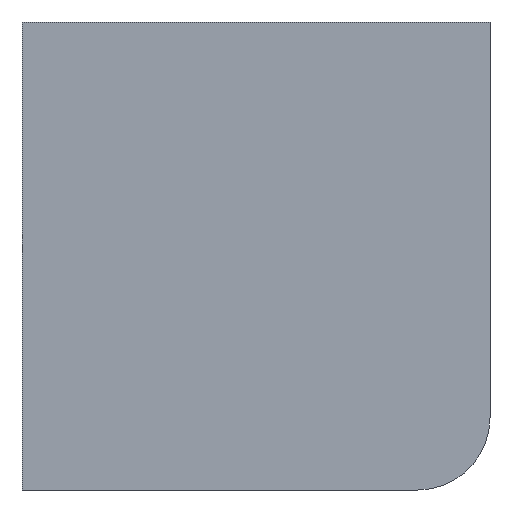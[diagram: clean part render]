
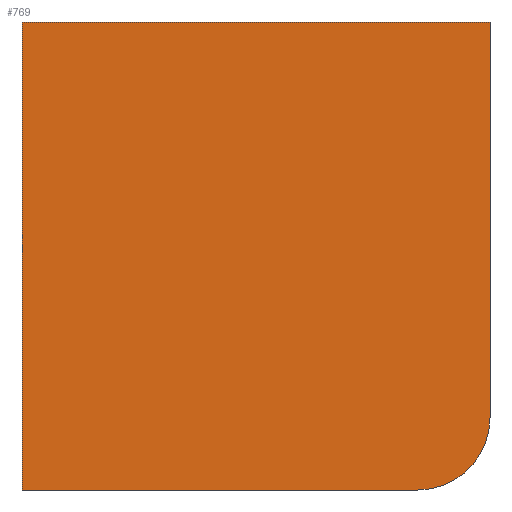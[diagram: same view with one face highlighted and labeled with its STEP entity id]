
A CAD part, left-side view. The second image highlights one B-rep face of the part: STEP entity #769.
In plain terms, the highlighted planar face has unit normal (-1, 0, 0).
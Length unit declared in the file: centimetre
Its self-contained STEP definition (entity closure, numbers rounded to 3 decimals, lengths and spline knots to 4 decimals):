
#78 = EDGE_CURVE ( 'NONE', #677, #429, #668, .T. ) ;
#90 = DIRECTION ( 'NONE',  ( 0., 0., -1. ) ) ;
#91 = PLANE ( 'NONE',  #541 ) ;
#95 = VECTOR ( 'NONE', #798, 100. ) ;
#100 = ORIENTED_EDGE ( 'NONE', *, *, #507, .T. ) ;
#131 = CARTESIAN_POINT ( 'NONE',  ( 0., 154.4971, 154.4971 ) ) ;
#159 = CARTESIAN_POINT ( 'NONE',  ( 0., 1000., 0. ) ) ;
#160 = CARTESIAN_POINT ( 'NONE',  ( 0., 0., 1000. ) ) ;
#240 = LINE ( 'NONE', #797, #555 ) ;
#253 = CARTESIAN_POINT ( 'NONE',  ( 0., 154.4971, 0. ) ) ;
#254 = CARTESIAN_POINT ( 'NONE',  ( 0., 1000., 1000. ) ) ;
#363 = DIRECTION ( 'NONE',  ( 1., 0., 0. ) ) ;
#429 = VERTEX_POINT ( 'NONE', #719 ) ;
#444 = CARTESIAN_POINT ( 'NONE',  ( 0., 1000., 1000. ) ) ;
#507 = EDGE_CURVE ( 'NONE', #1043, #590, #533, .T. ) ;
#533 = LINE ( 'NONE', #901, #670 ) ;
#541 = AXIS2_PLACEMENT_3D ( 'NONE', #444, #363, #720 ) ;
#555 = VECTOR ( 'NONE', #1055, 100. ) ;
#567 = VECTOR ( 'NONE', #1157, 100. ) ;
#589 = CARTESIAN_POINT ( 'NONE',  ( 0., 1000., 1000. ) ) ;
#590 = VERTEX_POINT ( 'NONE', #159 ) ;
#591 = EDGE_CURVE ( 'NONE', #590, #677, #240, .T. ) ;
#668 = CIRCLE ( 'NONE', #766, 154.4971 ) ;
#670 = VECTOR ( 'NONE', #90, 100. ) ;
#677 = VERTEX_POINT ( 'NONE', #253 ) ;
#708 = ORIENTED_EDGE ( 'NONE', *, *, #1003, .F. ) ;
#719 = CARTESIAN_POINT ( 'NONE',  ( 0., 0., 154.4971 ) ) ;
#720 = DIRECTION ( 'NONE',  ( 0., 0., -1. ) ) ;
#743 = DIRECTION ( 'NONE',  ( -1., 0., 0. ) ) ;
#766 = AXIS2_PLACEMENT_3D ( 'NONE', #131, #743, #1120 ) ;
#769 = ADVANCED_FACE ( 'NONE', ( #909 ), #91, .F. ) ;
#797 = CARTESIAN_POINT ( 'NONE',  ( 0., 1000., 0. ) ) ;
#798 = DIRECTION ( 'NONE',  ( 0., 0., -1. ) ) ;
#837 = ORIENTED_EDGE ( 'NONE', *, *, #78, .T. ) ;
#881 = EDGE_LOOP ( 'NONE', ( #927, #837, #708, #1133, #100 ) ) ;
#901 = CARTESIAN_POINT ( 'NONE',  ( 0., 1000., 1000. ) ) ;
#909 = FACE_OUTER_BOUND ( 'NONE', #881, .T. ) ;
#927 = ORIENTED_EDGE ( 'NONE', *, *, #591, .T. ) ;
#1003 = EDGE_CURVE ( 'NONE', #1118, #429, #1151, .T. ) ;
#1037 = EDGE_CURVE ( 'NONE', #1043, #1118, #1051, .T. ) ;
#1043 = VERTEX_POINT ( 'NONE', #254 ) ;
#1051 = LINE ( 'NONE', #589, #567 ) ;
#1055 = DIRECTION ( 'NONE',  ( 0., -1., 0. ) ) ;
#1101 = CARTESIAN_POINT ( 'NONE',  ( 0., 0., 1000. ) ) ;
#1118 = VERTEX_POINT ( 'NONE', #1101 ) ;
#1120 = DIRECTION ( 'NONE',  ( 0., 0., -1. ) ) ;
#1133 = ORIENTED_EDGE ( 'NONE', *, *, #1037, .F. ) ;
#1151 = LINE ( 'NONE', #160, #95 ) ;
#1157 = DIRECTION ( 'NONE',  ( 0., -1., 0. ) ) ;
